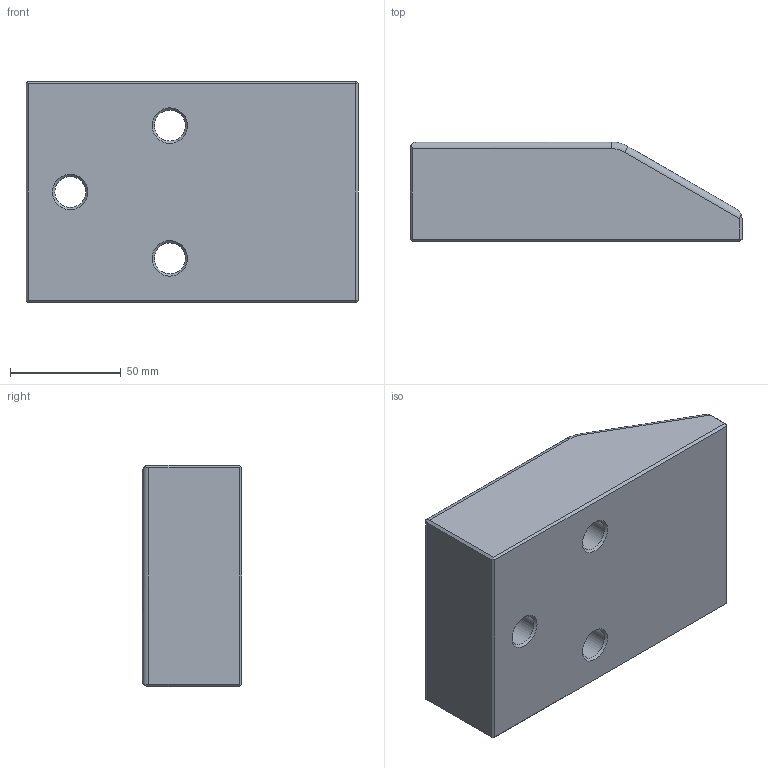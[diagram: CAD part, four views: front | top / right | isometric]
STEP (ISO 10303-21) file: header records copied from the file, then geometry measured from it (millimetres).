
FILE_DESCRIPTION(/* description */ ('Impex Ready, www.impex-ready.pl'),/* implementation_level */ '2;1');
FILE_NAME(/* name */ 'C:\Users\VIKKY\Nextcloud\SM\projekt 10 - części na stronę internetową\Pliki_3D_new\346 Kliny CA10\346_CA10_STEP\CA10.10045150.ipt.step',/* time_stamp */ '2021-12-08T18:50:10+03:00',/* author */ ('SM'),/* organization */ (''),/* preprocessor_version */ 'ST-DEVELOPER v18.1',/* originating_system */ 'Autodesk Inventor 2021',/* authorisation */ '');
FILE_SCHEMA (('AUTOMOTIVE_DESIGN { 1 0 10303 214 3 1 1 }'));
Length unit declared in the file: millimetre
Products named in the file (1): CA10.10045150
Bounding box: 150 x 45 x 100 mm (x, y, z)
Volume: 550646.9 mm3; surface area: 53859.3 mm2
Topology: 1 solids, 1 shells, 41 faces, 95 edges, 59 vertices
Faces by surface type: plane 20, cylinder 13, torus 5, cone 3
Full cylindrical faces by diameter (mm): 14 x3, 20 x3
Entity records: 1289 total; most frequent: DIRECTION 219, CARTESIAN_POINT 210, ORIENTED_EDGE 190, EDGE_CURVE 95, AXIS2_PLACEMENT_3D 84, VERTEX_POINT 59, LINE 51, VECTOR 51
